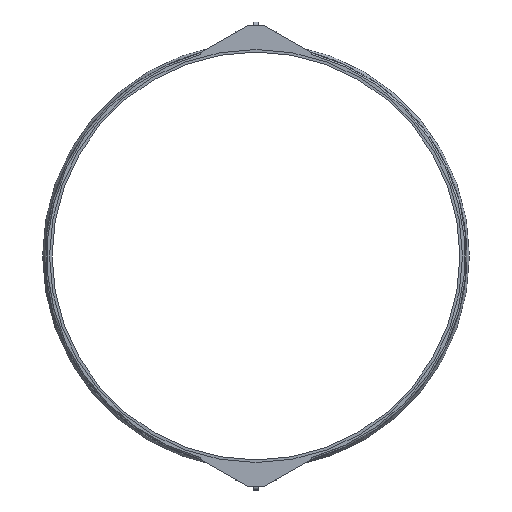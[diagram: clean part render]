
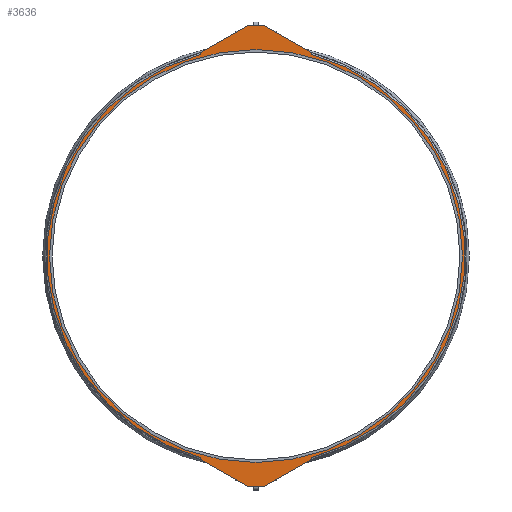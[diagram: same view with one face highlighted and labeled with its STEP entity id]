
A CAD part, left-side view. The second image highlights one B-rep face of the part: STEP entity #3636.
In plain terms, the highlighted planar face has unit normal (-1, 0, 0).
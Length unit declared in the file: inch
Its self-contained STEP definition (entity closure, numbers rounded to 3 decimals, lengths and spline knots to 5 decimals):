
#94=FACE_BOUND('',#642,.T.);
#230=PLANE('',#3965);
#421=FACE_OUTER_BOUND('',#641,.T.);
#641=EDGE_LOOP('',(#3188,#3189,#3190,#3191,#3192,#3193,#3194,#3195,#3196,
#3197,#3198,#3199,#3200,#3201,#3202,#3203,#3204,#3205,#3206,#3207));
#642=EDGE_LOOP('',(#3208,#3209));
#763=LINE('',#5299,#1114);
#769=LINE('',#5315,#1120);
#772=LINE('',#5325,#1123);
#777=LINE('',#5336,#1128);
#779=LINE('',#5361,#1130);
#938=LINE('',#5894,#1289);
#949=LINE('',#5925,#1300);
#951=LINE('',#5932,#1302);
#955=LINE('',#5941,#1306);
#958=LINE('',#5949,#1309);
#1114=VECTOR('',#4267,0.3937);
#1120=VECTOR('',#4281,0.3937);
#1123=VECTOR('',#4292,0.3937);
#1128=VECTOR('',#4303,0.3937);
#1130=VECTOR('',#4311,0.3937);
#1289=VECTOR('',#4724,0.3937);
#1300=VECTOR('',#4751,0.3937);
#1302=VECTOR('',#4759,0.3937);
#1306=VECTOR('',#4769,0.3937);
#1309=VECTOR('',#4778,0.3937);
#1369=CIRCLE('',#3742,0.063);
#1371=CIRCLE('',#3746,0.125);
#1372=CIRCLE('',#3749,0.125);
#1373=CIRCLE('',#3752,0.063);
#1376=CIRCLE('',#3758,30.375);
#1377=CIRCLE('',#3760,30.375);
#1423=CIRCLE('',#3890,0.063);
#1424=CIRCLE('',#3893,0.125);
#1425=CIRCLE('',#3896,0.125);
#1426=CIRCLE('',#3899,0.063);
#1461=CIRCLE('',#3963,30.);
#1462=CIRCLE('',#3964,30.);
#1562=VERTEX_POINT('',#5279);
#1563=VERTEX_POINT('',#5298);
#1566=VERTEX_POINT('',#5305);
#1567=VERTEX_POINT('',#5307);
#1569=VERTEX_POINT('',#5313);
#1571=VERTEX_POINT('',#5319);
#1572=VERTEX_POINT('',#5323);
#1574=VERTEX_POINT('',#5330);
#1575=VERTEX_POINT('',#5334);
#1577=VERTEX_POINT('',#5341);
#1580=VERTEX_POINT('',#5369);
#1581=VERTEX_POINT('',#5390);
#1716=VERTEX_POINT('',#5893);
#1728=VERTEX_POINT('',#5923);
#1729=VERTEX_POINT('',#5927);
#1730=VERTEX_POINT('',#5931);
#1731=VERTEX_POINT('',#5935);
#1732=VERTEX_POINT('',#5940);
#1733=VERTEX_POINT('',#5944);
#1734=VERTEX_POINT('',#5948);
#1777=VERTEX_POINT('',#6091);
#1778=VERTEX_POINT('',#6093);
#1923=EDGE_CURVE('',#1562,#1563,#763,.T.);
#1927=EDGE_CURVE('',#1566,#1567,#1369,.T.);
#1931=EDGE_CURVE('',#1569,#1566,#769,.T.);
#1934=EDGE_CURVE('',#1571,#1569,#1371,.T.);
#1936=EDGE_CURVE('',#1572,#1571,#772,.T.);
#1940=EDGE_CURVE('',#1574,#1572,#1372,.T.);
#1942=EDGE_CURVE('',#1575,#1574,#777,.T.);
#1943=EDGE_CURVE('',#1563,#1575,#1373,.T.);
#1946=EDGE_CURVE('',#1567,#1577,#779,.T.);
#1951=EDGE_CURVE('',#1562,#1580,#1376,.T.);
#1952=EDGE_CURVE('',#1581,#1577,#1377,.T.);
#2155=EDGE_CURVE('',#1716,#1581,#938,.T.);
#2171=EDGE_CURVE('',#1580,#1728,#949,.T.);
#2172=EDGE_CURVE('',#1729,#1716,#1423,.T.);
#2174=EDGE_CURVE('',#1730,#1729,#951,.T.);
#2176=EDGE_CURVE('',#1731,#1730,#1424,.T.);
#2179=EDGE_CURVE('',#1732,#1731,#955,.T.);
#2181=EDGE_CURVE('',#1733,#1732,#1425,.T.);
#2183=EDGE_CURVE('',#1734,#1733,#958,.T.);
#2185=EDGE_CURVE('',#1728,#1734,#1426,.T.);
#2254=EDGE_CURVE('',#1778,#1777,#1461,.T.);
#2255=EDGE_CURVE('',#1777,#1778,#1462,.T.);
#3188=ORIENTED_EDGE('',*,*,#1952,.T.);
#3189=ORIENTED_EDGE('',*,*,#1946,.F.);
#3190=ORIENTED_EDGE('',*,*,#1927,.F.);
#3191=ORIENTED_EDGE('',*,*,#1931,.F.);
#3192=ORIENTED_EDGE('',*,*,#1934,.F.);
#3193=ORIENTED_EDGE('',*,*,#1936,.F.);
#3194=ORIENTED_EDGE('',*,*,#1940,.F.);
#3195=ORIENTED_EDGE('',*,*,#1942,.F.);
#3196=ORIENTED_EDGE('',*,*,#1943,.F.);
#3197=ORIENTED_EDGE('',*,*,#1923,.F.);
#3198=ORIENTED_EDGE('',*,*,#1951,.T.);
#3199=ORIENTED_EDGE('',*,*,#2171,.T.);
#3200=ORIENTED_EDGE('',*,*,#2185,.T.);
#3201=ORIENTED_EDGE('',*,*,#2183,.T.);
#3202=ORIENTED_EDGE('',*,*,#2181,.T.);
#3203=ORIENTED_EDGE('',*,*,#2179,.T.);
#3204=ORIENTED_EDGE('',*,*,#2176,.T.);
#3205=ORIENTED_EDGE('',*,*,#2174,.T.);
#3206=ORIENTED_EDGE('',*,*,#2172,.T.);
#3207=ORIENTED_EDGE('',*,*,#2155,.T.);
#3208=ORIENTED_EDGE('',*,*,#2254,.T.);
#3209=ORIENTED_EDGE('',*,*,#2255,.T.);
#3636=ADVANCED_FACE('',(#421,#94),#230,.T.);
#3742=AXIS2_PLACEMENT_3D('',#5308,#4274,#4275);
#3746=AXIS2_PLACEMENT_3D('',#5321,#4287,#4288);
#3749=AXIS2_PLACEMENT_3D('',#5332,#4298,#4299);
#3752=AXIS2_PLACEMENT_3D('',#5338,#4306,#4307);
#3758=AXIS2_PLACEMENT_3D('',#5388,#4321,#4322);
#3760=AXIS2_PLACEMENT_3D('',#5391,#4325,#4326);
#3890=AXIS2_PLACEMENT_3D('',#5928,#4754,#4755);
#3893=AXIS2_PLACEMENT_3D('',#5936,#4763,#4764);
#3896=AXIS2_PLACEMENT_3D('',#5945,#4773,#4774);
#3899=AXIS2_PLACEMENT_3D('',#5952,#4782,#4783);
#3963=AXIS2_PLACEMENT_3D('',#6094,#4944,#4945);
#3964=AXIS2_PLACEMENT_3D('',#6095,#4946,#4947);
#3965=AXIS2_PLACEMENT_3D('',#6096,#4948,#4949);
#4267=DIRECTION('',(0.,0.,-1.));
#4274=DIRECTION('center_axis',(1.,0.,0.));
#4275=DIRECTION('ref_axis',(0.,-1.,0.));
#4281=DIRECTION('',(0.,0.871,0.491));
#4287=DIRECTION('center_axis',(1.,0.,0.));
#4288=DIRECTION('ref_axis',(0.,-0.491,0.871));
#4292=DIRECTION('',(0.,1.,0.));
#4298=DIRECTION('center_axis',(1.,0.,0.));
#4299=DIRECTION('ref_axis',(0.,0.,1.));
#4303=DIRECTION('',(0.,0.871,-0.491));
#4306=DIRECTION('center_axis',(1.,0.,0.));
#4307=DIRECTION('ref_axis',(0.,0.491,0.871));
#4311=DIRECTION('',(0.,0.,1.));
#4321=DIRECTION('center_axis',(-1.,0.,0.));
#4322=DIRECTION('ref_axis',(0.,0.,1.));
#4325=DIRECTION('center_axis',(-1.,0.,0.));
#4326=DIRECTION('ref_axis',(0.,0.,1.));
#4724=DIRECTION('',(0.,0.,-1.));
#4751=DIRECTION('',(0.,0.,1.));
#4754=DIRECTION('center_axis',(-1.,0.,0.));
#4755=DIRECTION('ref_axis',(0.,-1.,0.));
#4759=DIRECTION('',(0.,0.871,-0.491));
#4763=DIRECTION('center_axis',(-1.,0.,0.));
#4764=DIRECTION('ref_axis',(0.,-0.491,-0.871));
#4769=DIRECTION('',(0.,1.,0.));
#4773=DIRECTION('center_axis',(-1.,0.,0.));
#4774=DIRECTION('ref_axis',(0.,0.,-1.));
#4778=DIRECTION('',(0.,0.871,0.491));
#4782=DIRECTION('center_axis',(-1.,0.,0.));
#4783=DIRECTION('ref_axis',(0.,0.491,-0.871));
#4944=DIRECTION('center_axis',(1.,0.,0.));
#4945=DIRECTION('ref_axis',(0.,0.,-1.));
#4946=DIRECTION('center_axis',(1.,0.,0.));
#4947=DIRECTION('ref_axis',(0.,0.,-1.));
#4948=DIRECTION('center_axis',(-1.,0.,0.));
#4949=DIRECTION('ref_axis',(0.,0.,1.));
#5279=CARTESIAN_POINT('',(-3.25,-8.,-29.30257));
#5298=CARTESIAN_POINT('',(-3.25,-8.,-29.56577));
#5299=CARTESIAN_POINT('',(-3.25,-8.,-29.30257));
#5305=CARTESIAN_POINT('',(-3.25,7.96795,-29.62065));
#5307=CARTESIAN_POINT('',(-3.25,8.,-29.56577));
#5308=CARTESIAN_POINT('Origin',(-3.25,7.937,-29.56577));
#5313=CARTESIAN_POINT('',(-3.25,1.02858,-33.53388));
#5315=CARTESIAN_POINT('',(-3.25,1.02858,-33.53388));
#5319=CARTESIAN_POINT('',(-3.25,0.96718,-33.55));
#5321=CARTESIAN_POINT('Origin',(-3.25,0.96718,-33.425));
#5323=CARTESIAN_POINT('',(-3.25,-0.96718,-33.55));
#5325=CARTESIAN_POINT('',(-3.25,0.,-33.55));
#5330=CARTESIAN_POINT('',(-3.25,-1.02858,-33.53388));
#5332=CARTESIAN_POINT('Origin',(-3.25,-0.96718,-33.425));
#5334=CARTESIAN_POINT('',(-3.25,-7.96795,-29.62065));
#5336=CARTESIAN_POINT('',(-3.25,-7.96795,-29.62065));
#5338=CARTESIAN_POINT('Origin',(-3.25,-7.937,-29.56577));
#5341=CARTESIAN_POINT('',(-3.25,8.,-29.30257));
#5361=CARTESIAN_POINT('',(-3.25,8.,-29.56577));
#5369=CARTESIAN_POINT('',(-3.25,-8.,29.30257));
#5388=CARTESIAN_POINT('Origin',(-3.25,0.,0.));
#5390=CARTESIAN_POINT('',(-3.25,8.,29.30257));
#5391=CARTESIAN_POINT('Origin',(-3.25,0.,0.));
#5893=CARTESIAN_POINT('',(-3.25,8.,29.56577));
#5894=CARTESIAN_POINT('',(-3.25,8.,29.56577));
#5923=CARTESIAN_POINT('',(-3.25,-8.,29.56577));
#5925=CARTESIAN_POINT('',(-3.25,-8.,29.30257));
#5927=CARTESIAN_POINT('',(-3.25,7.96795,29.62065));
#5928=CARTESIAN_POINT('Origin',(-3.25,7.937,29.56577));
#5931=CARTESIAN_POINT('',(-3.25,1.02858,33.53388));
#5932=CARTESIAN_POINT('',(-3.25,1.02858,33.53388));
#5935=CARTESIAN_POINT('',(-3.25,0.96718,33.55));
#5936=CARTESIAN_POINT('Origin',(-3.25,0.96718,33.425));
#5940=CARTESIAN_POINT('',(-3.25,-0.96718,33.55));
#5941=CARTESIAN_POINT('',(-3.25,0.,33.55));
#5944=CARTESIAN_POINT('',(-3.25,-1.02858,33.53388));
#5945=CARTESIAN_POINT('Origin',(-3.25,-0.96718,33.425));
#5948=CARTESIAN_POINT('',(-3.25,-7.96795,29.62065));
#5949=CARTESIAN_POINT('',(-3.25,-7.96795,29.62065));
#5952=CARTESIAN_POINT('Origin',(-3.25,-7.937,29.56577));
#6091=CARTESIAN_POINT('',(-3.25,-30.,0.));
#6093=CARTESIAN_POINT('',(-3.25,30.,0.));
#6094=CARTESIAN_POINT('Origin',(-3.25,0.,0.));
#6095=CARTESIAN_POINT('Origin',(-3.25,0.,0.));
#6096=CARTESIAN_POINT('Origin',(-3.25,30.625,0.));
